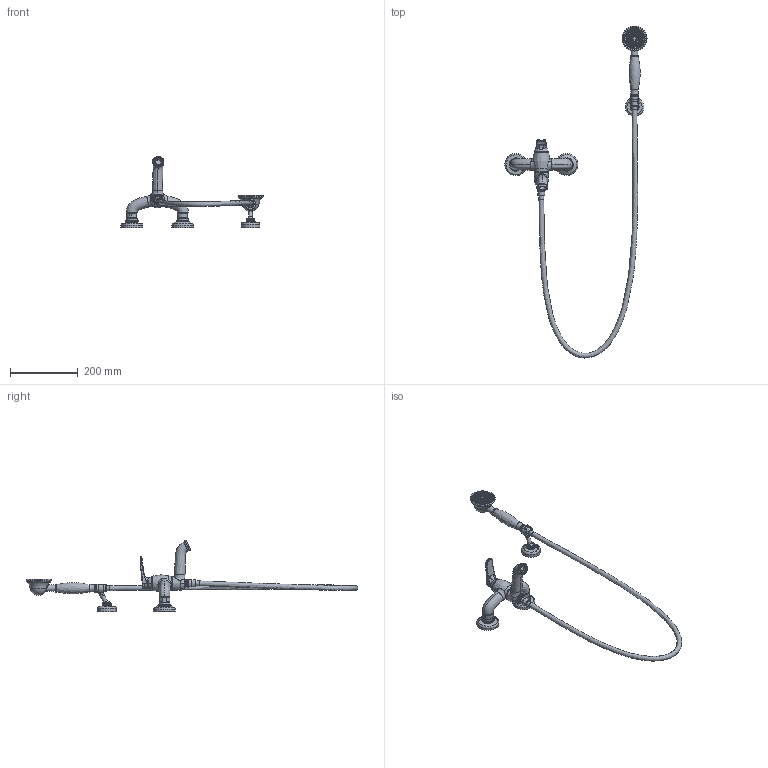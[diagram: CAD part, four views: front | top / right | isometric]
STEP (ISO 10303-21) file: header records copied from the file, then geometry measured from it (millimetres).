
FILE_DESCRIPTION(/* description */ (''),/* implementation_level */ '2;1');
FILE_NAME(/* name */ 'c:\worker\convert-fusion-r09\tmp\job-1\17\output\files\d550fc2c-cca9-43bb-9cce-e3230fceef8f\81ce9b54-68b6-410d-82c5-985d26291f15.stp',/* time_stamp */ '2019-12-17T08:09:49+00:00',/* author */ (''),/* organization */ (''),/* preprocessor_version */ 'ST-DEVELOPER v18',/* originating_system */ 'Autodesk Translation Framework v8.12.0.6',/* authorisation */ '');
FILE_SCHEMA (('AUTOMOTIVE_DESIGN { 1 0 10303 214 3 1 1 }'));
Products named in the file (1): !AD5131
Bounding box: 419.45 x 979.51 x 210.32 mm (x, y, z)
Volume: 859530.8 mm3; surface area: 206634 mm2
Topology: 20 solids, 22 shells, 751 faces, 1950 edges, 1414 vertices
Faces by surface type: plane 303, cylinder 271, bspline 81, torus 69, cone 25, sphere 2
Full cylindrical faces by diameter (mm): 1 x104, 2 x104, 14 x2, 15 x2, 17.534 x4, 18.5 x1, 19.822 x3, 20 x4, 20.1 x1, 21 x2, 23.6 x2, 23.8 x1, 24 x2, 27.5 x1, 28.2 x1, 32 x2, 32.5 x2, 38 x1, 38.6 x1, 39 x1, 41 x1, 54.8 x1, 65 x2
Entity records: 43546 total; most frequent: CARTESIAN_POINT 24552, DIRECTION 4230, ORIENTED_EDGE 3876, AXIS2_PLACEMENT_3D 1944, EDGE_CURVE 1938, VERTEX_POINT 1416, CIRCLE 1250, EDGE_LOOP 942
